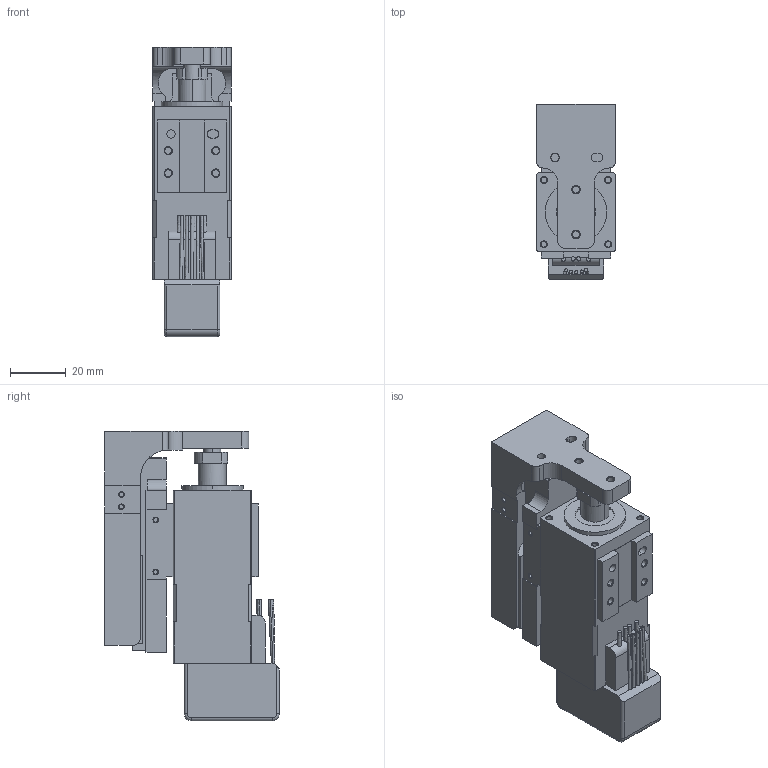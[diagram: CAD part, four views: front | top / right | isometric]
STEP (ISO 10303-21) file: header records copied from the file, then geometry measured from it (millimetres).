
FILE_DESCRIPTION (( 'STEP AP203' ), '1' );
FILE_NAME ('DR28T2.5B03-AZAKD.step', '2018-06-05T06:07:17', ( 'U41034' ), ( 'Hewlett-Packard Company' ), 'SwSTEP 2.0', 'SolidWorks 2017', '' );
FILE_SCHEMA (( 'CONFIG_CONTROL_DESIGN' ));
Length unit declared in the file: millimetre
Products named in the file (3): DR28T2.5B03-AZAKD_BASE; DR28T2.5B03-AZAKD_BallScrew; DR28T2.5B03-AZAKD
Assembly tree (2 placements, depth 2):
  DR28T2.5B03-AZAKD
    DR28T2.5B03-AZAKD_BASE
    DR28T2.5B03-AZAKD_BallScrew
Bounding box: 28 x 62.5 x 103.5 mm (x, y, z)
Volume: 110492.1 mm3; surface area: 31057.4 mm2
Topology: 2 solids, 2 shells, 351 faces, 876 edges, 564 vertices
Faces by surface type: plane 167, cylinder 118, cone 44, bspline 18, torus 4
Entity records: 12616 total; most frequent: CARTESIAN_POINT 3870, DIRECTION 1763, ORIENTED_EDGE 1752, EDGE_CURVE 876, AXIS2_PLACEMENT_3D 627, VERTEX_POINT 564, VECTOR 509, LINE 509
